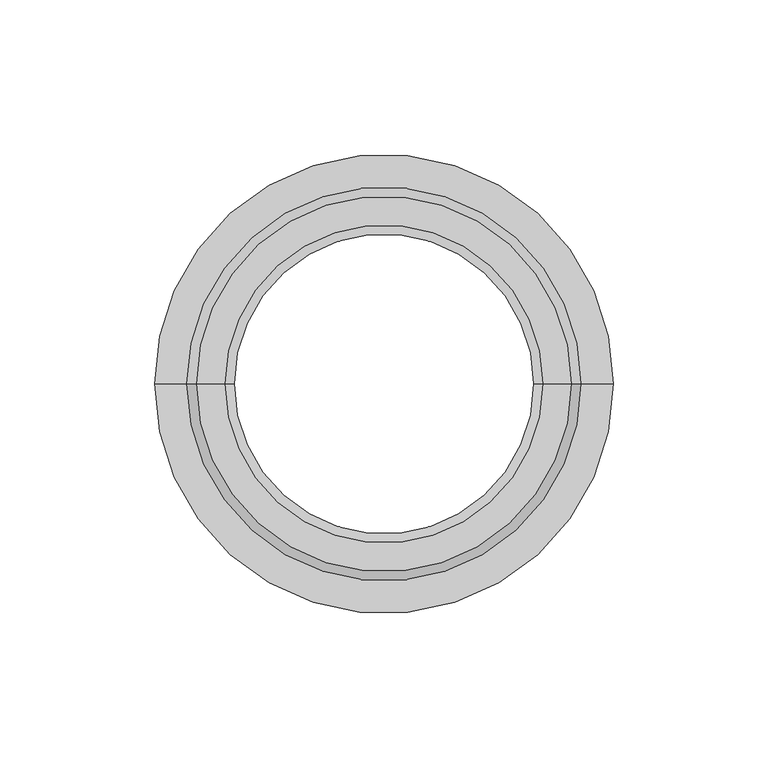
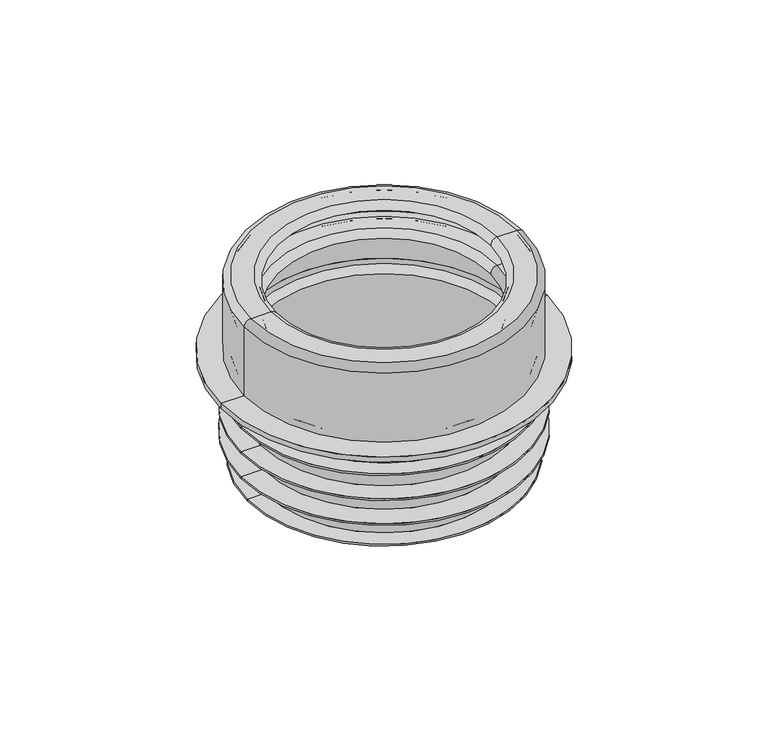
"""IFC4 building model written with IfcOpenShell, lengths in millimetres: sanitary terminal geometry, RSen_52_PIF_UN_closet connector no.4_wisa : closet connector_wisa_no 4 white."""

import ifcopenshell
import ifcopenshell.guid

model = None  # the IFC model being written
_history = None  # IfcOwnerHistory: only IFC2X3 demands one
_inside = {}  # id of a spatial element -> (the spatial element, [elements in it])
_under = {}  # id of a project, library or spatial element -> (it, [spatial elements below it])
_declared = {}  # id of a project -> (the project, [libraries it declares])
_typed = {}  # id of a type object -> (the type object, [elements of that type])
_made_of = {}  # id of a material, layer set ... -> (it, [elements and type objects made of it])


def new_model(schema):
    """Start an empty IFC model of exactly this schema.

    Asked for "IFC4X3", IfcOpenShell would pick the latest addendum, in which some entities
    have other attributes; the version numbers below select the first issue.
    IFC2X3 requires an IfcOwnerHistory on every rooted entity: one is made here for all.
    """
    global model, _history
    if schema == "IFC4X3":
        model = ifcopenshell.file(schema_version=(4, 3, 0, 0))
    else:
        model = ifcopenshell.file(schema=schema)
    _inside.clear()
    _under.clear()
    _declared.clear()
    _typed.clear()
    _made_of.clear()
    _history = None
    if model.schema == "IFC2X3":
        org = make("IfcOrganization", Name="unknown")
        user = make(
            "IfcPersonAndOrganization",
            ThePerson=make("IfcPerson", FamilyName="unknown"),
            TheOrganization=org,
        )
        app = make(
            "IfcApplication",
            ApplicationDeveloper=org,
            Version="unknown",
            ApplicationFullName="unknown",
            ApplicationIdentifier="unknown",
        )
        _history = make(
            "IfcOwnerHistory",
            OwningUser=user,
            OwningApplication=app,
            ChangeAction="ADDED",
            CreationDate=0,
        )
    return model


def make(cls, **values):
    """One entity of the class cls with the attributes given. An attribute that is None is left unset."""
    return model.create_entity(
        cls, **{name: value for name, value in values.items() if value is not None}
    )


def rooted(cls, **values):
    """An entity with a GlobalId (a new one), such as an element, a storey or a relation."""
    return make(cls, GlobalId=ifcopenshell.guid.new(), OwnerHistory=_history, **values)


def si_unit(unit_type, name, prefix=None):
    """IfcSIUnit, for example si_unit("LENGTHUNIT", "METRE", prefix="MILLI")."""
    return make("IfcSIUnit", UnitType=unit_type, Prefix=prefix, Name=name)


def assignment(units):
    """IfcUnitAssignment: the units of a project."""
    return None if units is None else make("IfcUnitAssignment", Units=units)


def point(xyz):
    """IfcCartesianPoint."""
    return None if xyz is None else make("IfcCartesianPoint", Coordinates=xyz)


def direction(xyz):
    """IfcDirection."""
    return None if xyz is None else make("IfcDirection", DirectionRatios=xyz)


def frame(location, z_axis=None, x_axis=None):
    """IfcAxis2Placement3D, a coordinate frame: its origin and axes. An axis left out is left unset."""
    return make(
        "IfcAxis2Placement3D",
        Location=point(location),
        Axis=direction(z_axis),
        RefDirection=direction(x_axis),
    )


def origin():
    """The frame at (0, 0, 0) with its axes left unset."""
    return frame((0.0, 0.0, 0.0))


def place(relative_to, where):
    """IfcLocalPlacement: puts the frame where relative to a parent placement (None: the world)."""
    return make(
        "IfcLocalPlacement", PlacementRelTo=relative_to, RelativePlacement=where
    )


def context(
    kind, dimensions, precision=None, world=None, true_north=None, identifier=None
):
    """IfcGeometricRepresentationContext, for example the 3D "Model" context."""
    return make(
        "IfcGeometricRepresentationContext",
        ContextIdentifier=identifier,
        ContextType=kind,
        CoordinateSpaceDimension=dimensions,
        Precision=precision,
        WorldCoordinateSystem=world,
        TrueNorth=true_north,
    )


def project(units=None, contexts=None):
    """IfcProject with its units and contexts."""
    return rooted(
        "IfcProject",
        Name="project",
        RepresentationContexts=contexts,
        UnitsInContext=assignment(units),
    )


def spatial(cls, under=None, at=None, **own):
    """A site, building, storey or space (cls), placed at a placement, below another one or the project."""
    s = rooted(cls, ObjectPlacement=at, **own)
    if under is not None:
        _under.setdefault(under.id(), (under, []))[1].append(s)
    return s


def polyline(points):
    """IfcPolyline through the points."""
    return make("IfcPolyline", Points=[point(p) for p in points])


def circle_curve(where, radius):
    """IfcCircle in the frame where."""
    return make("IfcCircle", Position=where, Radius=radius)


def ellipse_curve(where, semi_axis1, semi_axis2):
    """IfcEllipse in the frame where."""
    return make(
        "IfcEllipse", Position=where, SemiAxis1=semi_axis1, SemiAxis2=semi_axis2
    )


def trimmed(basis, trim1, trim2, sense, master):
    """IfcTrimmedCurve: the piece of a basis curve between two trims."""
    return make(
        "IfcTrimmedCurve",
        BasisCurve=basis,
        Trim1=trim1,
        Trim2=trim2,
        SenseAgreement=sense,
        MasterRepresentation=master,
    )


def shape(context_of_items, identifier, shape_type, items):
    """IfcShapeRepresentation: the items that make up one representation, for example the "Body"."""
    return make(
        "IfcShapeRepresentation",
        ContextOfItems=context_of_items,
        RepresentationIdentifier=identifier,
        RepresentationType=shape_type,
        Items=items,
    )


def source(mapping_origin, context_of_items, identifier, shape_type, items):
    """IfcRepresentationMap: a shape defined once, which mapped items show again and again."""
    return make(
        "IfcRepresentationMap",
        MappingOrigin=mapping_origin,
        MappedRepresentation=shape(context_of_items, identifier, shape_type, items),
    )


def transform(
    local_origin,
    x_axis=None,
    y_axis=None,
    z_axis=None,
    scale=None,
    scale2=None,
    scale3=None,
    uniform=True,
):
    """IfcCartesianTransformationOperator3D, or its non-uniform kind. x_axis, y_axis, z_axis: its Axis1, 2, 3."""
    if uniform:
        return make(
            "IfcCartesianTransformationOperator3D",
            Axis1=direction(x_axis),
            Axis2=direction(y_axis),
            LocalOrigin=point(local_origin),
            Scale=scale,
            Axis3=direction(z_axis),
        )
    return make(
        "IfcCartesianTransformationOperator3DnonUniform",
        Axis1=direction(x_axis),
        Axis2=direction(y_axis),
        LocalOrigin=point(local_origin),
        Scale=scale,
        Axis3=direction(z_axis),
        Scale2=scale2,
        Scale3=scale3,
    )


def mapped(mapping_source, mapping_target):
    """IfcMappedItem: shows the shape of a source again, moved by a transform."""
    return make(
        "IfcMappedItem", MappingSource=mapping_source, MappingTarget=mapping_target
    )


def made_of(thing, what):
    """Note that an element or type object is made of a material, layer set ...; save() writes the relation."""
    if what is not None:
        _made_of.setdefault(what.id(), (what, []))[1].append(thing)
    return thing


def element(
    cls,
    number,
    at=None,
    inside=None,
    cuts=None,
    type_object=None,
    material=None,
    context=None,
    identifier="Body",
    shape_type=None,
    held_by="IfcProductDefinitionShape",
    body=None,
    shapes=None,
    **own,
):
    """One element of the class cls, such as IfcWall. Its Tag is "e" and its number.

    at: its placement. inside: the storey or other place that contains it. cuts: it is an
    opening in that element (IfcRelVoidsElement). A single representation is given by context,
    identifier, shape_type and body (its items); several are given by shapes. held_by: the class
    of the entity that holds the representations. save() writes the other relations.
    """
    e = rooted(cls, Tag="e%d" % number, ObjectPlacement=at, **own)
    if body is not None:
        shapes = [shape(context, identifier, shape_type, body)]
    if shapes is not None:
        e.Representation = make(held_by, Representations=shapes)
    if inside is not None:
        _inside.setdefault(inside.id(), (inside, []))[1].append(e)
    if cuts is not None:
        rooted(
            "IfcRelVoidsElement", RelatingBuildingElement=cuts, RelatedOpeningElement=e
        )
    if type_object is not None:
        _typed.setdefault(type_object.id(), (type_object, []))[1].append(e)
    return made_of(e, material)


def aggregate(whole, parts):
    """IfcRelAggregates: a whole, such as a stair, and the parts it consists of."""
    return rooted("IfcRelAggregates", RelatingObject=whole, RelatedObjects=parts)


def save(model, path):
    """Write the relations noted so far, then the file.

    IfcRelAggregates (storeys below a building ...), IfcRelContainedInSpatialStructure (elements
    in a storey), IfcRelDefinesByType, IfcRelAssociatesMaterial and IfcRelDeclares: one each for
    every whole, place, type object, material and project.
    """
    for whole, parts in _under.values():
        aggregate(whole, parts)
    for where, things in _inside.values():
        rooted(
            "IfcRelContainedInSpatialStructure",
            RelatedElements=things,
            RelatingStructure=where,
        )
    for kind, things in _typed.values():
        rooted("IfcRelDefinesByType", RelatedObjects=things, RelatingType=kind)
    for what, things in _made_of.values():
        rooted("IfcRelAssociatesMaterial", RelatedObjects=things, RelatingMaterial=what)
    for by, libraries in _declared.values():
        rooted("IfcRelDeclares", RelatingContext=by, RelatedDefinitions=libraries)
    model.write(path)


def plane_surface(at):
    """IfcPlane: the flat surface through the origin of the frame at, square to its z axis."""
    return make("IfcPlane", Position=at)


def cylinder_surface(at, radius):
    """IfcCylindricalSurface: all points at the distance radius from the z axis of the frame at."""
    return make("IfcCylindricalSurface", Position=at, Radius=radius)


def revolved_surface(curve, axis_point, axis_direction):
    """IfcSurfaceOfRevolution: the curve turned about the line through axis_point along axis_direction."""
    return make(
        "IfcSurfaceOfRevolution",
        SweptCurve=make("IfcArbitraryOpenProfileDef", ProfileType="CURVE", Curve=curve),
        AxisPosition=make("IfcAxis1Placement", Location=point(axis_point), Axis=direction(axis_direction)),
    )


def advanced_brep(points, edges, surfaces, faces):
    """IfcAdvancedBrep: a solid bounded by faces that lie on surfaces and meet in shared edges.

    An edge is (start, end): straight between two places in points (the first is 0);
    or (start, end, curve); or (start, end, curve, False) where it runs against its curve.
    A face is (place in surfaces, loops), or (place, loops, False) where it looks against
    its surface's normal. A loop lists edges by number (the first is 1), with a minus sign
    where the edge is run from its end to its start. The first loop is the outer one.
    """
    corners = [point(p) for p in points]
    vertices = [make("IfcVertexPoint", VertexGeometry=c) for c in corners]
    made = []
    for start, end, *more in edges:
        made.append(
            make(
                "IfcEdgeCurve",
                EdgeStart=vertices[start],
                EdgeEnd=vertices[end],
                EdgeGeometry=more[0] if more else make("IfcPolyline", Points=[corners[start], corners[end]]),
                SameSense=more[1] if len(more) > 1 else True,
            )
        )
    hull = []
    for where, loops, *sense in faces:
        bounds = []
        for j, loop in enumerate(loops):
            ring = [make("IfcOrientedEdge", EdgeElement=made[abs(k) - 1], Orientation=k > 0) for k in loop]
            bounds.append(
                make(
                    "IfcFaceOuterBound" if j == 0 else "IfcFaceBound",
                    Bound=make("IfcEdgeLoop", EdgeList=ring),
                    Orientation=True,
                )
            )
        hull.append(make("IfcAdvancedFace", Bounds=bounds, FaceSurface=surfaces[where], SameSense=sense[0] if sense else True))
    return make("IfcAdvancedBrep", Outer=make("IfcClosedShell", CfsFaces=hull))


def sanitary_terminal_4407072b(model_context):
    return source(origin(), model_context, "Body", "AdvancedBrep", [
        advanced_brep(
        [(-53.5, 0.0, -84.3), (53.5, 0.0, -84.3), (53.5, 0.0, -89.5), (-53.5, 0.0, -89.5), (-62.25, 0.0, -84.3), (62.25, 0.0, -84.3), (-62.25, 0.0, -83.5), (62.25, 0.0, -83.5), (-54.25, 0.0, -83.5), (54.25, 0.0, -83.5), (-54.25, 0.0, -72.3), (54.25, 0.0, -72.3), (-65.25, 0.0, -72.3), (65.25, 0.0, -72.3), (-65.25, 0.0, -71.5), (65.25, 0.0, -71.5), (-55.25, 0.0, -71.5), (55.25, 0.0, -71.5), (-55.25, 0.0, -60.3), (55.25, 0.0, -60.3), (-65.25, 0.0, -60.3), (65.25, 0.0, -60.3), (-65.25, 0.0, -59.5), (65.25, 0.0, -59.5), (-56.25, 0.0, -59.5), (56.25, 0.0, -59.5), (-56.25, 0.0, -48.3), (56.25, 0.0, -48.3), (-65.25, 0.0, -48.3), (65.25, 0.0, -48.3), (-65.25, 0.0, -47.5), (65.25, 0.0, -47.5), (-57.75, 0.0, -47.5), (57.75, 0.0, -47.5), (-57.75, 0.0, -35.5), (57.75, 0.0, -35.5), (-74.25, 0.0, -35.5), (74.25, 0.0, -35.5), (-74.25, 0.0, -33.1), (74.25, 0.0, -33.1), (-63.75, 0.0, -33.1), (63.75, 0.0, -33.1), (-63.75, 0.0, 0.0), (63.75, 0.0, 0.0), (-60.75, 0.0, 3.0), (60.75, 0.0, 3.0), (-51.5, 0.0, 3.0), (51.5, 0.0, 3.0), (-48.5, 0.0, 0.0), (48.5, 0.0, 0.0), (-49.3005023, 0.0, 0.0), (49.3005023, 0.0, 0.0), (-52.1051757, 0.0, 2.4813654), (52.1051757, 0.0, 2.4813654), (-59.516352, 0.0, 1.5713874), (59.516352, 0.0, 1.5713874), (-60.85, 0.0, 0.0639725), (60.85, 0.0, 0.0639725), (-60.85, 0.0, -9.1127636), (60.85, 0.0, -9.1127636), (-59.3549488, 0.0, -10.6078148), (59.3549488, 0.0, -10.6078148), (-51.5, 0.0, -10.6078148), (51.5, 0.0, -10.6078148), (-48.5, 0.0, -13.6078148), (48.5, 0.0, -13.6078148), (-49.3005023, 0.0, -13.6078148), (49.3005023, 0.0, -13.6078148), (-52.1051757, 0.0, -11.1264495), (52.1051757, 0.0, -11.1264495), (-59.2280004, 0.0, -12.0010224), (59.2280004, 0.0, -12.0010224), (-60.55, 0.0, -13.4952711), (60.55, 0.0, -13.4952711), (-60.55, 0.0, -31.5935487), (60.55, 0.0, -31.5935487), (-59.0138451, 0.0, -33.0997071), (59.0138451, 0.0, -33.0997071), (-55.9861739, 0.0, -35.8412311), (55.9861739, 0.0, -35.8412311), (-51.7, 0.0, -89.5), (51.7, 0.0, -89.5)],
        [
            (0, 1, circle_curve(frame((0.0, 0.0, -84.3), z_axis=(0.0, 0.0, -1.0), x_axis=(1.0, 0.0, 0.0)), 53.5)),
            (1, 2),
            (2, 3, circle_curve(frame((0.0, 0.0, -89.5), z_axis=(0.0, 0.0, 1.0), x_axis=(1.0, 0.0, 0.0)), 53.5)),
            (3, 0),
            (1, 0, circle_curve(frame((0.0, 0.0, -84.3), z_axis=(0.0, 0.0, -1.0), x_axis=(1.0, 0.0, 0.0)), 53.5)),
            (3, 2, circle_curve(frame((0.0, 0.0, -89.5), z_axis=(0.0, 0.0, 1.0), x_axis=(1.0, 0.0, 0.0)), 53.5)),
            (4, 5, circle_curve(frame((0.0, 0.0, -84.3), z_axis=(0.0, 0.0, -1.0), x_axis=(1.0, 0.0, 0.0)), 62.25)),
            (5, 1),
            (0, 4),
            (5, 4, circle_curve(frame((0.0, 0.0, -84.3), z_axis=(0.0, 0.0, -1.0), x_axis=(1.0, 0.0, 0.0)), 62.25)),
            (6, 7, circle_curve(frame((0.0, 0.0, -83.5), z_axis=(0.0, 0.0, -1.0), x_axis=(1.0, 0.0, 0.0)), 62.25)),
            (7, 5),
            (4, 6),
            (7, 6, circle_curve(frame((0.0, 0.0, -83.5), z_axis=(0.0, 0.0, -1.0), x_axis=(1.0, 0.0, 0.0)), 62.25)),
            (8, 9, circle_curve(frame((0.0, 0.0, -83.5), z_axis=(0.0, 0.0, -1.0), x_axis=(1.0, 0.0, 0.0)), 54.25)),
            (9, 7),
            (6, 8),
            (9, 8, circle_curve(frame((0.0, 0.0, -83.5), z_axis=(0.0, 0.0, -1.0), x_axis=(1.0, 0.0, 0.0)), 54.25)),
            (10, 11, circle_curve(frame((0.0, 0.0, -72.3), z_axis=(0.0, 0.0, -1.0), x_axis=(1.0, 0.0, 0.0)), 54.25)),
            (11, 9),
            (8, 10),
            (11, 10, circle_curve(frame((0.0, 0.0, -72.3), z_axis=(0.0, 0.0, -1.0), x_axis=(1.0, 0.0, 0.0)), 54.25)),
            (12, 13, circle_curve(frame((0.0, 0.0, -72.3), z_axis=(0.0, 0.0, -1.0), x_axis=(1.0, 0.0, 0.0)), 65.25)),
            (13, 11),
            (10, 12),
            (13, 12, circle_curve(frame((0.0, 0.0, -72.3), z_axis=(0.0, 0.0, -1.0), x_axis=(1.0, 0.0, 0.0)), 65.25)),
            (14, 15, circle_curve(frame((0.0, 0.0, -71.5), z_axis=(0.0, 0.0, -1.0), x_axis=(1.0, 0.0, 0.0)), 65.25)),
            (15, 13),
            (12, 14),
            (15, 14, circle_curve(frame((0.0, 0.0, -71.5), z_axis=(0.0, 0.0, -1.0), x_axis=(1.0, 0.0, 0.0)), 65.25)),
            (16, 17, circle_curve(frame((0.0, 0.0, -71.5), z_axis=(0.0, 0.0, -1.0), x_axis=(1.0, 0.0, 0.0)), 55.25)),
            (17, 15),
            (14, 16),
            (17, 16, circle_curve(frame((0.0, 0.0, -71.5), z_axis=(0.0, 0.0, -1.0), x_axis=(1.0, 0.0, 0.0)), 55.25)),
            (18, 19, circle_curve(frame((0.0, 0.0, -60.3), z_axis=(0.0, 0.0, -1.0), x_axis=(1.0, 0.0, 0.0)), 55.25)),
            (19, 17),
            (16, 18),
            (19, 18, circle_curve(frame((0.0, 0.0, -60.3), z_axis=(0.0, 0.0, -1.0), x_axis=(1.0, 0.0, 0.0)), 55.25)),
            (20, 21, circle_curve(frame((0.0, 0.0, -60.3), z_axis=(0.0, 0.0, -1.0), x_axis=(1.0, 0.0, 0.0)), 65.25)),
            (21, 19),
            (18, 20),
            (21, 20, circle_curve(frame((0.0, 0.0, -60.3), z_axis=(0.0, 0.0, -1.0), x_axis=(1.0, 0.0, 0.0)), 65.25)),
            (22, 23, circle_curve(frame((0.0, 0.0, -59.5), z_axis=(0.0, 0.0, -1.0), x_axis=(1.0, 0.0, 0.0)), 65.25)),
            (23, 21),
            (20, 22),
            (23, 22, circle_curve(frame((0.0, 0.0, -59.5), z_axis=(0.0, 0.0, -1.0), x_axis=(1.0, 0.0, 0.0)), 65.25)),
            (24, 25, circle_curve(frame((0.0, 0.0, -59.5), z_axis=(0.0, 0.0, -1.0), x_axis=(1.0, 0.0, 0.0)), 56.25)),
            (25, 23),
            (22, 24),
            (25, 24, circle_curve(frame((0.0, 0.0, -59.5), z_axis=(0.0, 0.0, -1.0), x_axis=(1.0, 0.0, 0.0)), 56.25)),
            (26, 27, circle_curve(frame((0.0, 0.0, -48.3), z_axis=(0.0, 0.0, -1.0), x_axis=(1.0, 0.0, 0.0)), 56.25)),
            (27, 25),
            (24, 26),
            (27, 26, circle_curve(frame((0.0, 0.0, -48.3), z_axis=(0.0, 0.0, -1.0), x_axis=(1.0, 0.0, 0.0)), 56.25)),
            (28, 29, circle_curve(frame((0.0, 0.0, -48.3), z_axis=(0.0, 0.0, -1.0), x_axis=(1.0, 0.0, 0.0)), 65.25)),
            (29, 27),
            (26, 28),
            (29, 28, circle_curve(frame((0.0, 0.0, -48.3), z_axis=(0.0, 0.0, -1.0), x_axis=(1.0, 0.0, 0.0)), 65.25)),
            (30, 31, circle_curve(frame((0.0, 0.0, -47.5), z_axis=(0.0, 0.0, -1.0), x_axis=(1.0, 0.0, 0.0)), 65.25)),
            (31, 29),
            (28, 30),
            (31, 30, circle_curve(frame((0.0, 0.0, -47.5), z_axis=(0.0, 0.0, -1.0), x_axis=(1.0, 0.0, 0.0)), 65.25)),
            (32, 33, circle_curve(frame((0.0, 0.0, -47.5), z_axis=(0.0, 0.0, -1.0), x_axis=(1.0, 0.0, 0.0)), 57.75)),
            (33, 31),
            (30, 32),
            (33, 32, circle_curve(frame((0.0, 0.0, -47.5), z_axis=(0.0, 0.0, -1.0), x_axis=(1.0, 0.0, 0.0)), 57.75)),
            (34, 35, circle_curve(frame((0.0, 0.0, -35.5), z_axis=(0.0, 0.0, -1.0), x_axis=(1.0, 0.0, 0.0)), 57.75)),
            (35, 33),
            (32, 34),
            (35, 34, circle_curve(frame((0.0, 0.0, -35.5), z_axis=(0.0, 0.0, -1.0), x_axis=(1.0, 0.0, 0.0)), 57.75)),
            (36, 37, circle_curve(frame((0.0, 0.0, -35.5), z_axis=(0.0, 0.0, -1.0), x_axis=(1.0, 0.0, 0.0)), 74.25)),
            (37, 35),
            (34, 36),
            (37, 36, circle_curve(frame((0.0, 0.0, -35.5), z_axis=(0.0, 0.0, -1.0), x_axis=(1.0, 0.0, 0.0)), 74.25)),
            (38, 39, circle_curve(frame((0.0, 0.0, -33.1), z_axis=(0.0, 0.0, -1.0), x_axis=(1.0, 0.0, 0.0)), 74.25)),
            (39, 37),
            (36, 38),
            (39, 38, circle_curve(frame((0.0, 0.0, -33.1), z_axis=(0.0, 0.0, -1.0), x_axis=(1.0, 0.0, 0.0)), 74.25)),
            (40, 41, circle_curve(frame((0.0, 0.0, -33.1), z_axis=(0.0, 0.0, -1.0), x_axis=(1.0, 0.0, 0.0)), 63.75)),
            (41, 39),
            (38, 40),
            (41, 40, circle_curve(frame((0.0, 0.0, -33.1), z_axis=(0.0, 0.0, -1.0), x_axis=(1.0, 0.0, 0.0)), 63.75)),
            (42, 43, circle_curve(frame((0.0, 0.0, 0.0), z_axis=(0.0, 0.0, -1.0), x_axis=(1.0, 0.0, 0.0)), 63.75)),
            (43, 41),
            (40, 42),
            (43, 42, circle_curve(frame((0.0, 0.0, 0.0), z_axis=(0.0, 0.0, -1.0), x_axis=(1.0, 0.0, 0.0)), 63.75)),
            (44, 45, circle_curve(frame((0.0, 0.0, 3.0), z_axis=(0.0, 0.0, -1.0), x_axis=(1.0, 0.0, 0.0)), 60.75)),
            (45, 43, circle_curve(frame((60.75, 0.0, 0.0), z_axis=(0.0, 1.0, 0.0), x_axis=(1.0, 0.0, 0.0)), 3.0)),
            (42, 44, circle_curve(frame((-60.75, 0.0, 0.0), z_axis=(0.0, 1.0, 0.0), x_axis=(-1.0, 0.0, 0.0)), 3.0)),
            (45, 44, circle_curve(frame((0.0, 0.0, 3.0), z_axis=(0.0, 0.0, -1.0), x_axis=(1.0, 0.0, 0.0)), 60.75)),
            (46, 47, circle_curve(frame((0.0, 0.0, 3.0), z_axis=(0.0, 0.0, -1.0), x_axis=(1.0, 0.0, 0.0)), 51.5)),
            (47, 45),
            (44, 46),
            (47, 46, circle_curve(frame((0.0, 0.0, 3.0), z_axis=(0.0, 0.0, -1.0), x_axis=(1.0, 0.0, 0.0)), 51.5)),
            (48, 49, circle_curve(frame((0.0, 0.0, 0.0), z_axis=(0.0, 0.0, -1.0), x_axis=(1.0, 0.0, 0.0)), 48.5)),
            (49, 47, circle_curve(frame((51.5, 0.0, 0.0), z_axis=(0.0, 1.0, 0.0), x_axis=(1.0, 0.0, 0.0)), 3.0)),
            (46, 48, circle_curve(frame((-51.5, 0.0, 0.0), z_axis=(0.0, 1.0, 0.0), x_axis=(-1.0, 0.0, 0.0)), 3.0)),
            (49, 48, circle_curve(frame((0.0, 0.0, 0.0), z_axis=(0.0, 0.0, -1.0), x_axis=(1.0, 0.0, 0.0)), 48.5)),
            (50, 51, circle_curve(frame((0.0, 0.0, 0.0), z_axis=(0.0, 0.0, -1.0), x_axis=(1.0, 0.0, 0.0)), 49.3005023)),
            (51, 49),
            (48, 50),
            (51, 50, circle_curve(frame((0.0, 0.0, 0.0), z_axis=(0.0, 0.0, -1.0), x_axis=(1.0, 0.0, 0.0)), 49.3005023)),
            (52, 53, circle_curve(frame((0.0, 0.0, 2.4813654), z_axis=(0.0, 0.0, -1.0), x_axis=(1.0, 0.0, 0.0)), 52.1051757)),
            (53, 51, circle_curve(frame((51.8005023, 0.0, 0.0), z_axis=(0.0, -1.0, 0.0), x_axis=(1.0, 0.0, 0.0)), 2.5)),
            (50, 52, circle_curve(frame((-51.8005023, 0.0, 0.0), z_axis=(0.0, -1.0, 0.0), x_axis=(-1.0, 0.0, 0.0)), 2.5)),
            (53, 52, circle_curve(frame((0.0, 0.0, 2.4813654), z_axis=(0.0, 0.0, -1.0), x_axis=(1.0, 0.0, 0.0)), 52.1051757)),
            (54, 55, circle_curve(frame((0.0, 0.0, 1.5713874), z_axis=(0.0, 0.0, -1.0), x_axis=(1.0, 0.0, 0.0)), 59.516352)),
            (55, 53),
            (52, 54),
            (55, 54, circle_curve(frame((0.0, 0.0, 1.5713874), z_axis=(0.0, 0.0, -1.0), x_axis=(1.0, 0.0, 0.0)), 59.516352)),
            (56, 57, circle_curve(frame((0.0, 0.0, 0.0639725), z_axis=(0.0, 0.0, -1.0), x_axis=(1.0, 0.0, 0.0)), 60.85)),
            (57, 55, circle_curve(frame((59.3312647, 0.0, 0.0639725), z_axis=(0.0, -1.0, 0.0), x_axis=(1.0, 0.0, 0.0)), 1.5187353)),
            (54, 56, circle_curve(frame((-59.3312647, 0.0, 0.0639725), z_axis=(0.0, -1.0, 0.0), x_axis=(-1.0, 0.0, 0.0)), 1.5187353)),
            (57, 56, circle_curve(frame((0.0, 0.0, 0.0639725), z_axis=(0.0, 0.0, -1.0), x_axis=(1.0, 0.0, 0.0)), 60.85)),
            (58, 59, circle_curve(frame((0.0, 0.0, -9.1127636), z_axis=(0.0, 0.0, -1.0), x_axis=(1.0, 0.0, 0.0)), 60.85)),
            (59, 57),
            (56, 58),
            (59, 58, circle_curve(frame((0.0, 0.0, -9.1127636), z_axis=(0.0, 0.0, -1.0), x_axis=(1.0, 0.0, 0.0)), 60.85)),
            (60, 61, circle_curve(frame((0.0, 0.0, -10.6078148), z_axis=(0.0, 0.0, -1.0), x_axis=(1.0, 0.0, 0.0)), 59.3549488)),
            (61, 59, circle_curve(frame((59.3549488, 0.0, -9.1127636), z_axis=(0.0, -1.0, 0.0), x_axis=(1.0, 0.0, 0.0)), 1.4950512)),
            (58, 60, circle_curve(frame((-59.3549488, 0.0, -9.1127636), z_axis=(0.0, -1.0, 0.0), x_axis=(-1.0, 0.0, 0.0)), 1.4950512)),
            (61, 60, circle_curve(frame((0.0, 0.0, -10.6078148), z_axis=(0.0, 0.0, -1.0), x_axis=(1.0, 0.0, 0.0)), 59.3549488)),
            (62, 63, circle_curve(frame((0.0, 0.0, -10.6078148), z_axis=(0.0, 0.0, -1.0), x_axis=(1.0, 0.0, 0.0)), 51.5)),
            (63, 61),
            (60, 62),
            (63, 62, circle_curve(frame((0.0, 0.0, -10.6078148), z_axis=(0.0, 0.0, -1.0), x_axis=(1.0, 0.0, 0.0)), 51.5)),
            (64, 65, circle_curve(frame((0.0, 0.0, -13.6078148), z_axis=(0.0, 0.0, -1.0), x_axis=(1.0, 0.0, 0.0)), 48.5)),
            (65, 63, circle_curve(frame((51.5, 0.0, -13.6078148), z_axis=(0.0, 1.0, 0.0), x_axis=(1.0, 0.0, 0.0)), 3.0)),
            (62, 64, circle_curve(frame((-51.5, 0.0, -13.6078148), z_axis=(0.0, 1.0, 0.0), x_axis=(-1.0, 0.0, 0.0)), 3.0)),
            (65, 64, circle_curve(frame((0.0, 0.0, -13.6078148), z_axis=(0.0, 0.0, -1.0), x_axis=(1.0, 0.0, 0.0)), 48.5)),
            (66, 67, circle_curve(frame((0.0, 0.0, -13.6078148), z_axis=(0.0, 0.0, -1.0), x_axis=(1.0, 0.0, 0.0)), 49.3005023)),
            (67, 65),
            (64, 66),
            (67, 66, circle_curve(frame((0.0, 0.0, -13.6078148), z_axis=(0.0, 0.0, -1.0), x_axis=(1.0, 0.0, 0.0)), 49.3005023)),
            (68, 69, circle_curve(frame((0.0, 0.0, -11.1264495), z_axis=(0.0, 0.0, -1.0), x_axis=(1.0, 0.0, 0.0)), 52.1051757)),
            (69, 67, circle_curve(frame((51.8005023, 0.0, -13.6078148), z_axis=(0.0, -1.0, 0.0), x_axis=(1.0, 0.0, 0.0)), 2.5)),
            (66, 68, circle_curve(frame((-51.8005023, 0.0, -13.6078148), z_axis=(0.0, -1.0, 0.0), x_axis=(-1.0, 0.0, 0.0)), 2.5)),
            (69, 68, circle_curve(frame((0.0, 0.0, -11.1264495), z_axis=(0.0, 0.0, -1.0), x_axis=(1.0, 0.0, 0.0)), 52.1051757)),
            (70, 71, circle_curve(frame((0.0, 0.0, -12.0010224), z_axis=(0.0, 0.0, -1.0), x_axis=(1.0, 0.0, 0.0)), 59.2280004)),
            (71, 69),
            (68, 70),
            (71, 70, circle_curve(frame((0.0, 0.0, -12.0010224), z_axis=(0.0, 0.0, -1.0), x_axis=(1.0, 0.0, 0.0)), 59.2280004)),
            (72, 73, circle_curve(frame((0.0, 0.0, -13.4952711), z_axis=(0.0, 0.0, -1.0), x_axis=(1.0, 0.0, 0.0)), 60.55)),
            (73, 71, circle_curve(frame((59.0445298, 0.0, -13.4952711), z_axis=(0.0, -1.0, 0.0), x_axis=(1.0, 0.0, 0.0)), 1.5054702)),
            (70, 72, circle_curve(frame((-59.0445298, 0.0, -13.4952711), z_axis=(0.0, -1.0, 0.0), x_axis=(-1.0, 0.0, 0.0)), 1.5054702)),
            (73, 72, circle_curve(frame((0.0, 0.0, -13.4952711), z_axis=(0.0, 0.0, -1.0), x_axis=(1.0, 0.0, 0.0)), 60.55)),
            (74, 75, circle_curve(frame((0.0, 0.0, -31.5935487), z_axis=(0.0, 0.0, -1.0), x_axis=(1.0, 0.0, 0.0)), 60.55)),
            (75, 73),
            (72, 74),
            (75, 74, circle_curve(frame((0.0, 0.0, -31.5935487), z_axis=(0.0, 0.0, -1.0), x_axis=(1.0, 0.0, 0.0)), 60.55)),
            (76, 77, circle_curve(frame((0.0, 0.0, -33.0997071), z_axis=(0.0, 0.0, -1.0), x_axis=(1.0, 0.0, 0.0)), 59.0138451)),
            (77, 75, circle_curve(frame((59.0435487, 0.0, -31.5935487), z_axis=(0.0, -1.0, 0.0), x_axis=(1.0, 0.0, 0.0)), 1.5064513)),
            (74, 76, circle_curve(frame((-59.0435487, 0.0, -31.5935487), z_axis=(0.0, -1.0, 0.0), x_axis=(-1.0, 0.0, 0.0)), 1.5064513)),
            (77, 76, circle_curve(frame((0.0, 0.0, -33.0997071), z_axis=(0.0, 0.0, -1.0), x_axis=(1.0, 0.0, 0.0)), 59.0138451)),
            (78, 79, circle_curve(frame((0.0, 0.0, -35.8412311), z_axis=(0.0, 0.0, -1.0), x_axis=(1.0, 0.0, 0.0)), 55.9861739)),
            (79, 77, circle_curve(frame((58.9551014, 0.0, -36.0783842), z_axis=(0.0, 1.0, 0.0), x_axis=(1.0, 0.0, 0.0)), 2.9783842)),
            (76, 78, circle_curve(frame((-58.9551014, 0.0, -36.0783842), z_axis=(0.0, 1.0, 0.0), x_axis=(-1.0, 0.0, 0.0)), 2.9783842)),
            (79, 78, circle_curve(frame((0.0, 0.0, -35.8412311), z_axis=(0.0, 0.0, -1.0), x_axis=(1.0, 0.0, 0.0)), 55.9861739)),
            (80, 81, circle_curve(frame((0.0, 0.0, -89.5), z_axis=(0.0, 0.0, -1.0), x_axis=(1.0, 0.0, 0.0)), 51.7)),
            (81, 79),
            (78, 80),
            (81, 80, circle_curve(frame((0.0, 0.0, -89.5), z_axis=(0.0, 0.0, -1.0), x_axis=(1.0, 0.0, 0.0)), 51.7)),
            (2, 81),
            (80, 3),
        ],
        [
            cylinder_surface(frame((0.0, 0.0, 3.0), z_axis=(0.0, 0.0, 1.0), x_axis=(1.0, 0.0, 0.0)), 53.5),
            plane_surface(frame((0.0, 0.0, -84.3), z_axis=(0.0, 0.0, -1.0), x_axis=(1.0, 0.0, 0.0))),
            cylinder_surface(frame((0.0, 0.0, 3.0), z_axis=(0.0, 0.0, 1.0), x_axis=(1.0, 0.0, 0.0)), 62.25),
            plane_surface(frame((0.0, 0.0, -83.5), z_axis=(0.0, 0.0, 1.0), x_axis=(1.0, 0.0, 0.0))),
            cylinder_surface(frame((0.0, 0.0, 3.0), z_axis=(0.0, 0.0, 1.0), x_axis=(1.0, 0.0, 0.0)), 54.25),
            plane_surface(frame((0.0, 0.0, -72.3), z_axis=(0.0, 0.0, -1.0), x_axis=(1.0, 0.0, 0.0))),
            cylinder_surface(frame((0.0, 0.0, 3.0), z_axis=(0.0, 0.0, 1.0), x_axis=(1.0, 0.0, 0.0)), 65.25),
            plane_surface(frame((0.0, 0.0, -71.5), z_axis=(0.0, 0.0, 1.0), x_axis=(1.0, 0.0, 0.0))),
            cylinder_surface(frame((0.0, 0.0, 3.0), z_axis=(0.0, 0.0, 1.0), x_axis=(1.0, 0.0, 0.0)), 55.25),
            plane_surface(frame((0.0, 0.0, -60.3), z_axis=(0.0, 0.0, -1.0), x_axis=(1.0, 0.0, 0.0))),
            plane_surface(frame((0.0, 0.0, -59.5), z_axis=(0.0, 0.0, 1.0), x_axis=(1.0, 0.0, 0.0))),
            cylinder_surface(frame((0.0, 0.0, 3.0), z_axis=(0.0, 0.0, 1.0), x_axis=(1.0, 0.0, 0.0)), 56.25),
            plane_surface(frame((0.0, 0.0, -48.3), z_axis=(0.0, 0.0, -1.0), x_axis=(1.0, 0.0, 0.0))),
            plane_surface(frame((0.0, 0.0, -47.5), z_axis=(0.0, 0.0, 1.0), x_axis=(1.0, 0.0, 0.0))),
            cylinder_surface(frame((0.0, 0.0, 3.0), z_axis=(0.0, 0.0, 1.0), x_axis=(1.0, 0.0, 0.0)), 57.75),
            plane_surface(frame((0.0, 0.0, -35.5), z_axis=(0.0, 0.0, -1.0), x_axis=(1.0, 0.0, 0.0))),
            cylinder_surface(frame((0.0, 0.0, 3.0), z_axis=(0.0, 0.0, 1.0), x_axis=(1.0, 0.0, 0.0)), 74.25),
            plane_surface(frame((0.0, 0.0, -33.1), z_axis=(0.0, 0.0, 1.0), x_axis=(1.0, 0.0, 0.0))),
            cylinder_surface(frame((0.0, 0.0, 3.0), z_axis=(0.0, 0.0, 1.0), x_axis=(1.0, 0.0, 0.0)), 63.75),
            revolved_surface(trimmed(ellipse_curve(frame((60.75, 0.0, 0.0), z_axis=(0.0, -1.0, 0.0), x_axis=(1.0, 0.0, 0.0)), 3.0, 3.0), [point((63.75, 0.0, 0.0))], [point((60.75, 0.0, 3.0))], True, "CARTESIAN"), (0.0, 0.0, 3.0), (0.0, 0.0, 1.0)),
            plane_surface(frame((0.0, 0.0, 3.0), z_axis=(0.0, 0.0, 1.0), x_axis=(1.0, 0.0, 0.0))),
            revolved_surface(trimmed(ellipse_curve(frame((51.5, 0.0, 0.0), z_axis=(0.0, -1.0, 0.0), x_axis=(1.0, 0.0, 0.0)), 3.0, 3.0), [point((51.5, 0.0, 3.0))], [point((48.5, 0.0, 0.0))], True, "CARTESIAN"), (0.0, 0.0, 3.0), (0.0, 0.0, 1.0)),
            plane_surface(frame((0.0, 0.0, 0.0), z_axis=(0.0, 0.0, -1.0), x_axis=(1.0, 0.0, 0.0))),
            revolved_surface(trimmed(ellipse_curve(frame((51.8005023, 0.0, 0.0), z_axis=(0.0, 1.0, 0.0), x_axis=(1.0, 0.0, 0.0)), 2.5, 2.5), [point((49.3005023, 0.0, 0.0))], [point((52.1051757, 0.0, 2.4813654))], True, "CARTESIAN"), (0.0, 0.0, 3.0), (0.0, 0.0, 1.0)),
            revolved_surface(polyline([(52.1051757, 0.0, 2.4813654), (59.516352, 0.0, 1.5713874)]), (0.0, 0.0, 3.0), (0.0, 0.0, 1.0)),
            revolved_surface(trimmed(ellipse_curve(frame((59.3312647, 0.0, 0.0639725), z_axis=(0.0, 1.0, 0.0), x_axis=(1.0, 0.0, 0.0)), 1.5187353, 1.5187353), [point((59.516352, 0.0, 1.5713874))], [point((60.85, 0.0, 0.0639725))], True, "CARTESIAN"), (0.0, 0.0, 3.0), (0.0, 0.0, 1.0)),
            revolved_surface(polyline([(60.85, 0.0, 0.06397250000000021), (60.85, 0.0, -9.1127636)]), (0.0, 0.0, 3.0), (0.0, 0.0, 1.0)),
            revolved_surface(trimmed(ellipse_curve(frame((59.3549488, 0.0, -9.1127636), z_axis=(0.0, 1.0, 0.0), x_axis=(1.0, 0.0, 0.0)), 1.4950512, 1.4950512), [point((60.85, 0.0, -9.1127636))], [point((59.3549488, 0.0, -10.6078148))], True, "CARTESIAN"), (0.0, 0.0, 3.0), (0.0, 0.0, 1.0)),
            plane_surface(frame((0.0, 0.0, -10.6078148), z_axis=(0.0, 0.0, 1.0), x_axis=(1.0, 0.0, 0.0))),
            revolved_surface(trimmed(ellipse_curve(frame((51.5, 0.0, -13.6078148), z_axis=(0.0, -1.0, 0.0), x_axis=(1.0, 0.0, 0.0)), 3.0, 3.0), [point((51.5, 0.0, -10.6078148))], [point((48.5, 0.0, -13.6078148))], True, "CARTESIAN"), (0.0, 0.0, 3.0), (0.0, 0.0, 1.0)),
            plane_surface(frame((0.0, 0.0, -13.6078148), z_axis=(0.0, 0.0, -1.0), x_axis=(1.0, 0.0, 0.0))),
            revolved_surface(trimmed(ellipse_curve(frame((51.8005023, 0.0, -13.6078148), z_axis=(0.0, 1.0, 0.0), x_axis=(1.0, 0.0, 0.0)), 2.5, 2.5), [point((49.3005023, 0.0, -13.6078148))], [point((52.1051757, 0.0, -11.1264495))], True, "CARTESIAN"), (0.0, 0.0, 3.0), (0.0, 0.0, 1.0)),
            revolved_surface(polyline([(52.1051757, 0.0, -11.1264495), (59.2280004, 0.0, -12.0010224)]), (0.0, 0.0, 3.0), (0.0, 0.0, 1.0)),
            revolved_surface(trimmed(ellipse_curve(frame((59.0445298, 0.0, -13.4952711), z_axis=(0.0, 1.0, 0.0), x_axis=(1.0, 0.0, 0.0)), 1.5054702, 1.5054702), [point((59.2280004, 0.0, -12.0010224))], [point((60.55, 0.0, -13.4952711))], True, "CARTESIAN"), (0.0, 0.0, 3.0), (0.0, 0.0, 1.0)),
            revolved_surface(polyline([(60.55, 0.0, -13.4952711), (60.55, 0.0, -31.5935487)]), (0.0, 0.0, 3.0), (0.0, 0.0, 1.0)),
            revolved_surface(trimmed(ellipse_curve(frame((59.0435487, 0.0, -31.5935487), z_axis=(0.0, 1.0, 0.0), x_axis=(1.0, 0.0, 0.0)), 1.5064513, 1.5064513), [point((60.55, 0.0, -31.5935487))], [point((59.0138451, 0.0, -33.0997071))], True, "CARTESIAN"), (0.0, 0.0, 3.0), (0.0, 0.0, 1.0)),
            revolved_surface(trimmed(ellipse_curve(frame((58.9551014, 0.0, -36.0783842), z_axis=(0.0, -1.0, 0.0), x_axis=(1.0, 0.0, 0.0)), 2.9783842, 2.9783842), [point((59.0138279, 0.0, -33.100579))], [point((55.9861739, 0.0, -35.8412311))], True, "CARTESIAN"), (0.0, 0.0, 3.0), (0.0, 0.0, 1.0)),
            revolved_surface(polyline([(55.9861739, 0.0, -35.8412311), (51.7, 0.0, -89.5)]), (0.0, 0.0, 3.0), (0.0, 0.0, 1.0)),
            plane_surface(frame((0.0, 0.0, -89.5), z_axis=(0.0, 0.0, -1.0), x_axis=(1.0, 0.0, 0.0))),
        ],
        [
            (0, [[1, 2, 3, 4]]),
            (0, [[5, -4, 6, -2]]),
            (1, [[7, 8, -1, 9]]),
            (1, [[10, -9, -5, -8]]),
            (2, [[11, 12, -7, 13]]),
            (2, [[14, -13, -10, -12]]),
            (3, [[15, 16, -11, 17]]),
            (3, [[18, -17, -14, -16]]),
            (4, [[19, 20, -15, 21]]),
            (4, [[22, -21, -18, -20]]),
            (5, [[23, 24, -19, 25]]),
            (5, [[26, -25, -22, -24]]),
            (6, [[27, 28, -23, 29]]),
            (6, [[30, -29, -26, -28]]),
            (7, [[31, 32, -27, 33]]),
            (7, [[34, -33, -30, -32]]),
            (8, [[35, 36, -31, 37]]),
            (8, [[38, -37, -34, -36]]),
            (9, [[39, 40, -35, 41]]),
            (9, [[42, -41, -38, -40]]),
            (6, [[43, 44, -39, 45]]),
            (6, [[46, -45, -42, -44]]),
            (10, [[47, 48, -43, 49]]),
            (10, [[50, -49, -46, -48]]),
            (11, [[51, 52, -47, 53]]),
            (11, [[54, -53, -50, -52]]),
            (12, [[55, 56, -51, 57]]),
            (12, [[58, -57, -54, -56]]),
            (6, [[59, 60, -55, 61]]),
            (6, [[62, -61, -58, -60]]),
            (13, [[63, 64, -59, 65]]),
            (13, [[66, -65, -62, -64]]),
            (14, [[67, 68, -63, 69]]),
            (14, [[70, -69, -66, -68]]),
            (15, [[71, 72, -67, 73]]),
            (15, [[74, -73, -70, -72]]),
            (16, [[75, 76, -71, 77]]),
            (16, [[78, -77, -74, -76]]),
            (17, [[79, 80, -75, 81]]),
            (17, [[82, -81, -78, -80]]),
            (18, [[83, 84, -79, 85]]),
            (18, [[86, -85, -82, -84]]),
            (19, [[87, 88, -83, 89]]),
            (19, [[90, -89, -86, -88]]),
            (20, [[91, 92, -87, 93]]),
            (20, [[94, -93, -90, -92]]),
            (21, [[95, 96, -91, 97]]),
            (21, [[98, -97, -94, -96]]),
            (22, [[99, 100, -95, 101]]),
            (22, [[102, -101, -98, -100]]),
            (23, [[103, 104, -99, 105]]),
            (23, [[106, -105, -102, -104]]),
            (24, [[107, 108, -103, 109]]),
            (24, [[110, -109, -106, -108]]),
            (25, [[111, 112, -107, 113]]),
            (25, [[114, -113, -110, -112]]),
            (26, [[115, 116, -111, 117]]),
            (26, [[118, -117, -114, -116]]),
            (27, [[119, 120, -115, 121]]),
            (27, [[122, -121, -118, -120]]),
            (28, [[123, 124, -119, 125]]),
            (28, [[126, -125, -122, -124]]),
            (29, [[127, 128, -123, 129]]),
            (29, [[130, -129, -126, -128]]),
            (30, [[131, 132, -127, 133]]),
            (30, [[134, -133, -130, -132]]),
            (31, [[135, 136, -131, 137]]),
            (31, [[138, -137, -134, -136]]),
            (32, [[139, 140, -135, 141]]),
            (32, [[142, -141, -138, -140]]),
            (33, [[143, 144, -139, 145]]),
            (33, [[146, -145, -142, -144]]),
            (34, [[147, 148, -143, 149]]),
            (34, [[150, -149, -146, -148]]),
            (35, [[151, 152, -147, 153]]),
            (35, [[154, -153, -150, -152]]),
            (36, [[155, 156, -151, 157]]),
            (36, [[158, -157, -154, -156]]),
            (37, [[159, 160, -155, 161]]),
            (37, [[162, -161, -158, -160]]),
            (38, [[-3, 163, -159, 164]]),
            (38, [[-6, -164, -162, -163]]),
        ],
    ),
    ])


if __name__ == "__main__":
    model = new_model("IFC4")
    model_context = context("Model", 3, world=origin())
    ifc_project = project(units=[si_unit("LENGTHUNIT", "METRE", prefix="MILLI")], contexts=[model_context])
    site = spatial("IfcSite", under=ifc_project)
    building = spatial("IfcBuilding", under=site)
    placement = place(None, origin())
    sanitary_terminal_shape = sanitary_terminal_4407072b(model_context)
    element("IfcSanitaryTerminal", 1, ObjectType="RSen_52_PIF_UN_closet connector no.4_wisa : closet connector_wisa_no 4 white", at=placement, inside=building, context=model_context, shape_type="MappedRepresentation", body=[
        mapped(sanitary_terminal_shape, transform((0.0, 0.0, 0.0), x_axis=(1.0, 0.0, 0.0), y_axis=(0.0, 1.0, 0.0), z_axis=(0.0, 0.0, 1.0))),
    ])
    save(model, "model.ifc")
